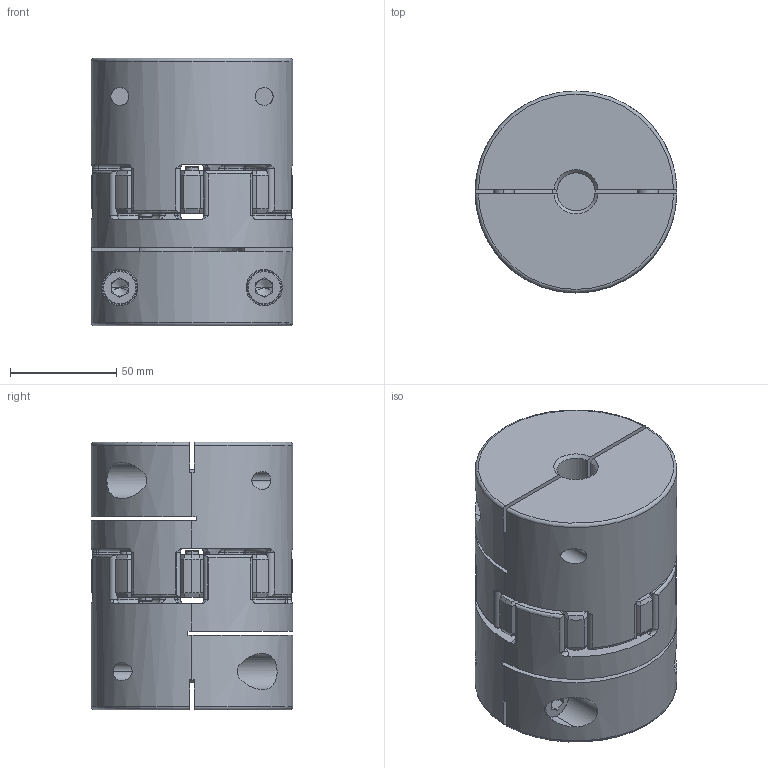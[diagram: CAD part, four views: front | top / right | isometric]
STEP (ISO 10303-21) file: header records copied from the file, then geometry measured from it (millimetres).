
FILE_DESCRIPTION (( 'STEP AP203' ), '1' );
FILE_NAME ('SJC-90C-18-50.STEP', '2019-04-25T04:46:05', ( '' ), ( '' ), 'SwSTEP 2.0', 'SolidWorks 2017', '' );
FILE_SCHEMA (( 'CONFIG_CONTROL_DESIGN' ));
Length unit declared in the file: millimetre
Products named in the file (1): SJC-90C-18-50
Bounding box: 95 x 95 x 126 mm (x, y, z)
Volume: 679836.6 mm3; surface area: 121695.3 mm2
Topology: 1 solids, 1 shells, 581 faces, 1508 edges, 911 vertices
Faces by surface type: cylinder 229, torus 124, cone 116, plane 112
Entity records: 19390 total; most frequent: CARTESIAN_POINT 5031, DIRECTION 3183, ORIENTED_EDGE 2976, EDGE_CURVE 1488, AXIS2_PLACEMENT_3D 1359, VERTEX_POINT 911, CIRCLE 777, EDGE_LOOP 623
